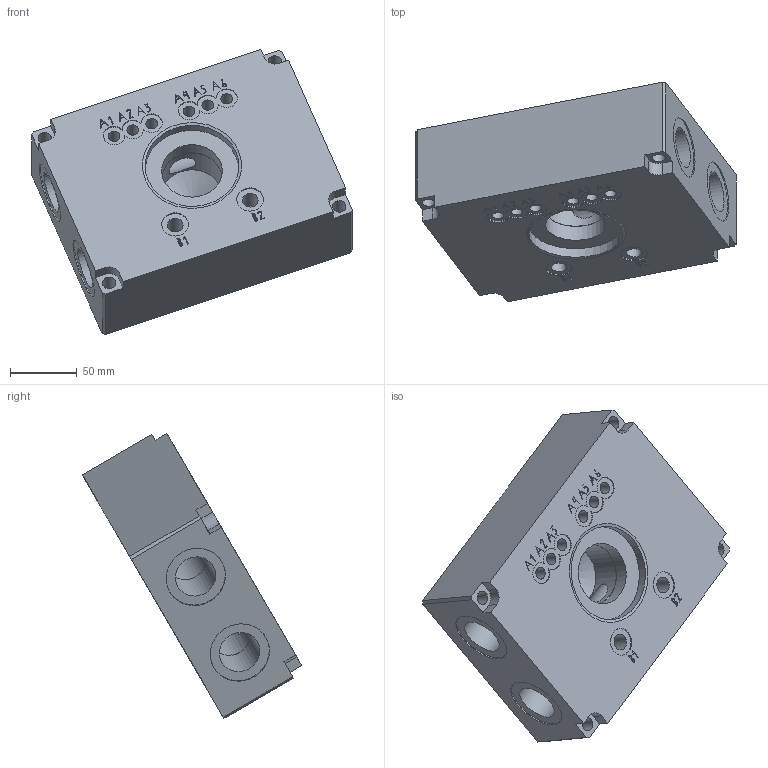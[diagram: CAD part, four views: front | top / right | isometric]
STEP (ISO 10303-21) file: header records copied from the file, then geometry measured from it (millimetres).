
FILE_DESCRIPTION((''),'2;1');
FILE_NAME('C:\Users\User\Desktop\Mastercam-harjoitukset\MCAM_MILL_5\Hydrauliikkalohko.stp','2020-03-23T23:03:32',(''),(''),'STEP Write','Mastercam 2020 ... CNC Software, Inc.','');
FILE_SCHEMA(('AUTOMOTIVE_DESIGN'));
Length unit declared in the file: millimetre
Products named in the file (1): None
Bounding box: 239.09 x 163.74 x 212.71 mm (x, y, z)
Volume: 1662135.5 mm3; surface area: 162032 mm2
Topology: 1 solids, 1 shells, 241 faces, 617 edges, 412 vertices
Faces by surface type: plane 177, cylinder 57, cone 7
Full cylindrical faces by diameter (mm): 2 x1, 8.8 x6, 10 x4, 11.8 x2, 20 x2, 30.5 x2, 30.75 x4, 45 x5, 45.25 x1, 70 x1
Entity records: 7803 total; most frequent: CARTESIAN_POINT 1772, DIRECTION 1146, ORIENTED_EDGE 1126, EDGE_CURVE 563, VECTOR 446, LINE 446, VERTEX_POINT 395, AXIS2_PLACEMENT_3D 350
